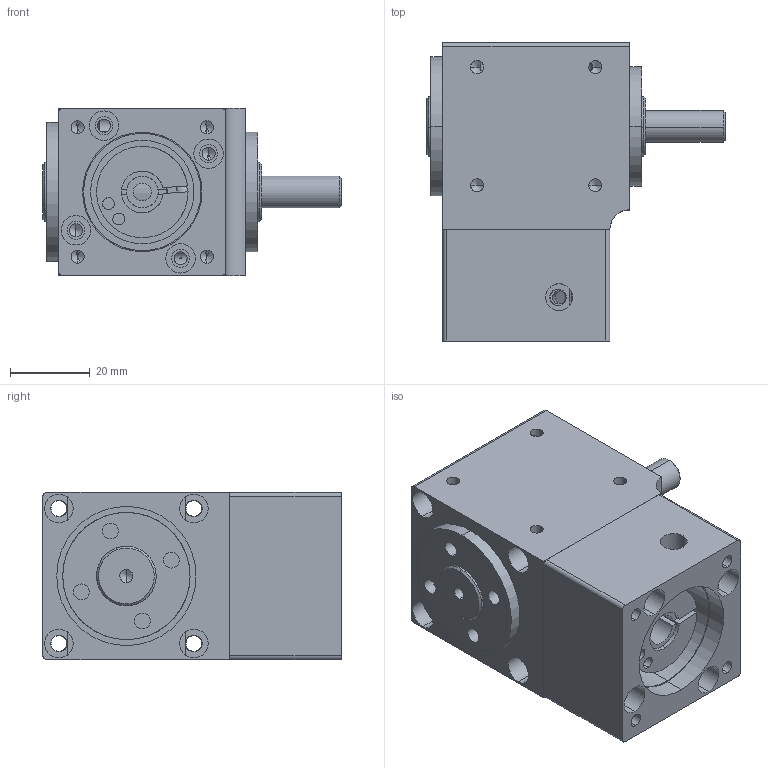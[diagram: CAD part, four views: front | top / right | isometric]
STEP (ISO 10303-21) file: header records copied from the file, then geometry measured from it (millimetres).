
FILE_DESCRIPTION (( 'STEP AP203' ), '1' );
FILE_NAME ('(堤粣8mm)PVFD040-L1-()-P()-8-30-46-M4等粣.STEP', '2022-10-09T01:14:52', ( 'User' ), ( 'China' ), 'SwSTEP 2.0', 'SolidWorks 2015', '' );
FILE_SCHEMA (( 'CONFIG_CONTROL_DESIGN' ));
Length unit declared in the file: millimetre
Products named in the file (11): deep groove ball bearings gb_Rolling bearings 61902 GB 276-94; 怀堤粣ㄗ等粣ㄘ8粣; 褲极; 綴楊擘ㄗ怢湛100Wㄘ; 输入轴; (堤粣8mm)PVFD040-L1-()-P()-8-30-46-M4等粣; 蹟譫; 蹟譫ㄗ2ㄘ; 標杶ㄗ1ㄘ; deep groove ball bearings gb_Rolling bearings 6001 GB 276-94; deep groove ball bearings gb_Rolling bearings 6002 GB 276-94
Assembly tree (10 placements, depth 2):
  (堤粣8mm)PVFD040-L1-()-P()-8-30-46-M4等粣
    褲极
    输入轴
    蹟譫
    蹟譫ㄗ2ㄘ
    標杶ㄗ1ㄘ
    deep groove ball bearings gb_Rolling bearings 6001 GB 276-94
    deep groove ball bearings gb_Rolling bearings 6002 GB 276-94
    deep groove ball bearings gb_Rolling bearings 61902 GB 276-94
    怀堤粣ㄗ等粣ㄘ8粣
    綴楊擘ㄗ怢湛100Wㄘ
Bounding box: 75 x 75 x 42 mm (x, y, z)
Volume: 101074.1 mm3; surface area: 55413.2 mm2
Topology: 10 solids, 10 shells, 666 faces, 2026 edges, 1298 vertices
Faces by surface type: bspline 275, cylinder 235, plane 86, cone 70
Entity records: 30781 total; most frequent: CARTESIAN_POINT 13263, ORIENTED_EDGE 3968, DIRECTION 2877, EDGE_CURVE 1984, VERTEX_POINT 1298, AXIS2_PLACEMENT_3D 1260, CIRCLE 856, EDGE_LOOP 794
